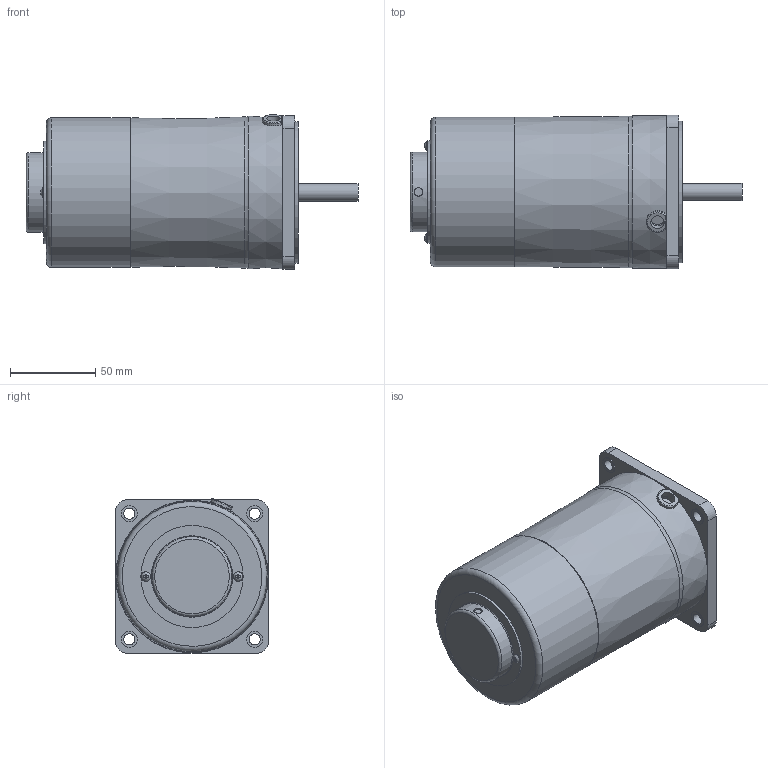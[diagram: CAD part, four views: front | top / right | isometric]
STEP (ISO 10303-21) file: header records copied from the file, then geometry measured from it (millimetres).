
FILE_DESCRIPTION((''),'2;1');
FILE_NAME('D:\김성묵\업무폴더\개발 파일\프로젝트 개발 AB등급\AC표준형 개발자료\90각 이하 표준형 개발\도면작성 자료\3D 도면\홈페이지용 3D 파일\40W MOTOR\ES TYPE\S9R40S-ES.stp','2015-03-30T20:42:43',('smkim'),(''),'Autodesk Inventor 2012','Autodesk Inventor 2012','');
FILE_SCHEMA(('AUTOMOTIVE_DESIGN { 1 0 10303 214 1 1 1 1 }'));
Length unit declared in the file: millimetre
Products named in the file (1): 부품124
Bounding box: 194.5 x 90 x 90.6 mm (x, y, z)
Volume: 918451.7 mm3; surface area: 64277.5 mm2
Topology: 1 solids, 6 shells, 140 faces, 324 edges, 213 vertices
Faces by surface type: plane 83, cylinder 43, torus 10, cone 2, bspline 2
Full cylindrical faces by diameter (mm): 3 x2, 3.5 x2, 5 x1, 5.6 x2, 6.5 x4, 8 x1, 9.5 x4, 10 x2, 40 x1, 44.7 x1, 46.7 x1, 47.7 x1, 59.9 x1, 83 x1, 86 x1, 87.8 x1
Entity records: 4048 total; most frequent: CARTESIAN_POINT 953, DIRECTION 618, ORIENTED_EDGE 548, EDGE_CURVE 274, AXIS2_PLACEMENT_3D 236, EDGE_LOOP 213, VERTEX_POINT 203, VECTOR 146
